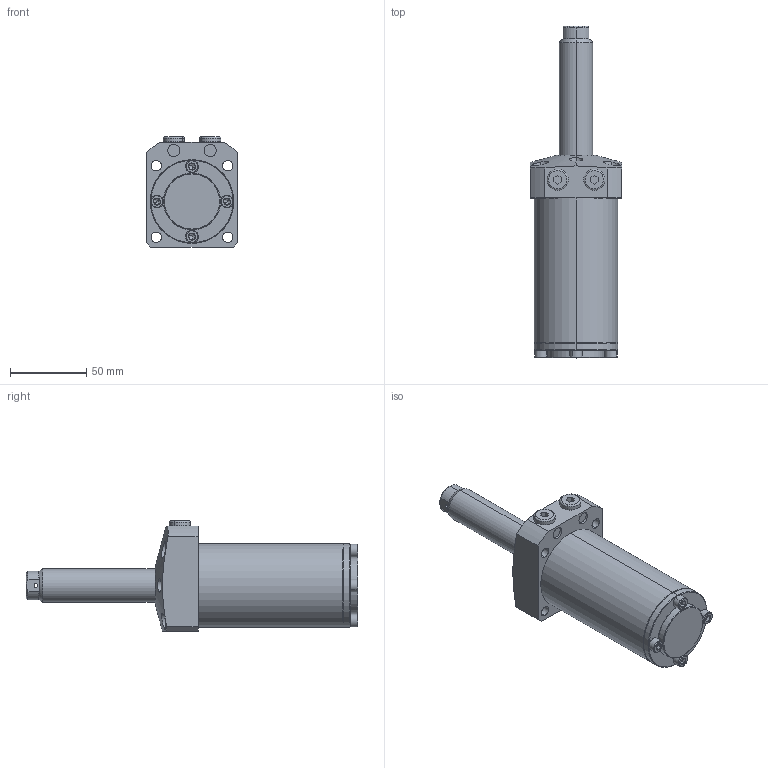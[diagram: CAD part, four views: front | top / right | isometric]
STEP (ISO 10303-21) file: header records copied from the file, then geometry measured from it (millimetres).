
FILE_DESCRIPTION (( 'STEP AP203' ), '1' );
FILE_NAME ('680550-CB-076.step', '2016-11-02T03:23:28', ( 'wxp' ), ( '' ), 'SwSTEP 2.0', 'SolidWorks 2011', '' );
FILE_SCHEMA (( 'CONFIG_CONTROL_DESIGN' ));
Length unit declared in the file: millimetre
Products named in the file (7): 680550-CB-076; 葩璃 68055-CA-51-6^680550-CB-076; 葩璃 68055-CA-51-5^680550-CB-076; 葩璃 68055-CA-51-4^680550-CB-076; 葩璃 68055-CA-51-3^680550-CB-076; 葩璃 68055-CA-51-2^680550-CB-076; 葩璃 68055-CA-51-1^680550-CB-076
Assembly tree (13 placements, depth 2):
  680550-CB-076
    葩璃 68055-CA-51-2^680550-CB-076
    葩璃 68055-CA-51-3^680550-CB-076
    葩璃 68055-CA-51-4^680550-CB-076  x4
    葩璃 68055-CA-51-5^680550-CB-076  x4
    葩璃 68055-CA-51-6^680550-CB-076  x2
    葩璃 68055-CA-51-1^680550-CB-076
Bounding box: 60 x 218 x 72.5 mm (x, y, z)
Volume: 342288 mm3; surface area: 58628.4 mm2
Topology: 13 solids, 13 shells, 419 faces, 809 edges, 436 vertices
Faces by surface type: plane 174, cone 120, cylinder 109, torus 16
Entity records: 7227 total; most frequent: CARTESIAN_POINT 1783, DIRECTION 1037, ORIENTED_EDGE 854, AXIS2_PLACEMENT_3D 433, EDGE_CURVE 427, VERTEX_POINT 254, EDGE_LOOP 249, CIRCLE 210
